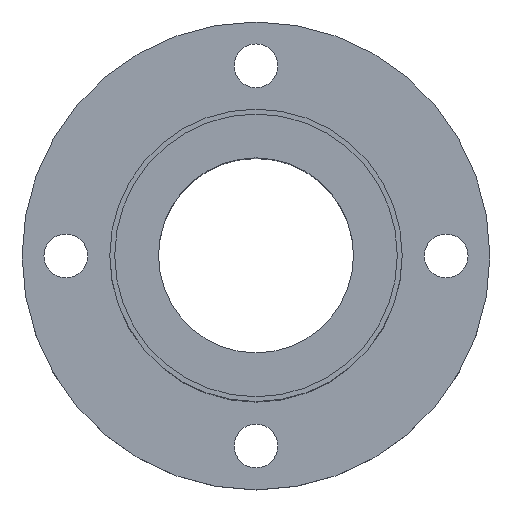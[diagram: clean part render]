
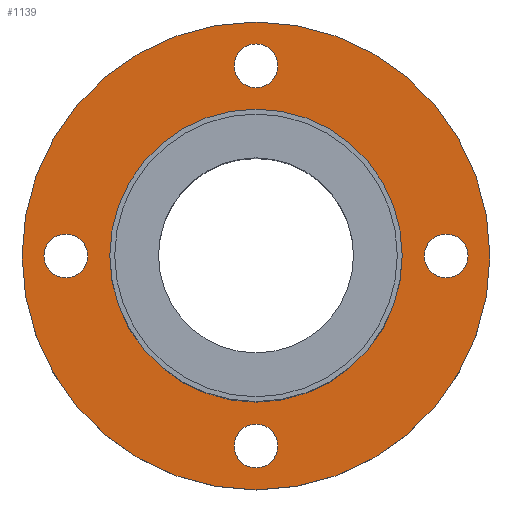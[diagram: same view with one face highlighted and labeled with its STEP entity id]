
A CAD part, top view. The second image highlights one B-rep face of the part: STEP entity #1139.
In plain terms, the highlighted planar face has unit normal (0, 0, 1).
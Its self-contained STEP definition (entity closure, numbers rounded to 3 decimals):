
#51=CARTESIAN_POINT('',(-48.,-0.1,13.0));
#52=VERTEX_POINT('',#51);
#68=CARTESIAN_POINT('',(48.,-0.1,13.0));
#69=VERTEX_POINT('',#68);
#76=CARTESIAN_POINT('',(0.0,-0.1,13.0));
#77=DIRECTION('',(0.0,0.0,-1.0));
#78=DIRECTION('',(-1.0,0.0,0.0));
#79=AXIS2_PLACEMENT_3D('',#76,#77,#78);
#80=CIRCLE('',#79,48.);
#81=EDGE_CURVE('',#69,#52,#80,.T.);
#133=CARTESIAN_POINT('',(-30.0,-0.1,13.0));
#134=VERTEX_POINT('',#133);
#143=CARTESIAN_POINT('',(30.0,-0.1,13.0));
#144=VERTEX_POINT('',#143);
#145=CARTESIAN_POINT('',(0.0,-0.1,13.0));
#146=DIRECTION('',(0.0,0.0,-1.0));
#147=DIRECTION('',(-1.0,0.0,0.0));
#148=AXIS2_PLACEMENT_3D('',#145,#146,#147);
#149=CIRCLE('',#148,30.0);
#150=EDGE_CURVE('',#144,#134,#149,.T.);
#345=CARTESIAN_POINT('',(0.0,34.4,13.));
#346=VERTEX_POINT('',#345);
#362=CARTESIAN_POINT('',(0.,43.4,13.0));
#363=VERTEX_POINT('',#362);
#370=CARTESIAN_POINT('',(0.0,38.9,13.0));
#371=DIRECTION('',(0.0,0.0,-1.0));
#372=DIRECTION('',(0.0,-1.0,0.0));
#373=AXIS2_PLACEMENT_3D('',#370,#371,#372);
#374=CIRCLE('',#373,4.5);
#375=EDGE_CURVE('',#346,#363,#374,.T.);
#429=CARTESIAN_POINT('',(-34.5,-0.1,13.));
#430=VERTEX_POINT('',#429);
#446=CARTESIAN_POINT('',(-43.5,-0.1,13.0));
#447=VERTEX_POINT('',#446);
#454=CARTESIAN_POINT('',(-39.0,-0.1,13.0));
#455=DIRECTION('',(0.0,0.0,-1.0));
#456=DIRECTION('',(1.0,0.0,0.0));
#457=AXIS2_PLACEMENT_3D('',#454,#455,#456);
#458=CIRCLE('',#457,4.5);
#459=EDGE_CURVE('',#430,#447,#458,.T.);
#513=CARTESIAN_POINT('',(0.,-34.6,13.));
#514=VERTEX_POINT('',#513);
#530=CARTESIAN_POINT('',(0.,-43.6,13.0));
#531=VERTEX_POINT('',#530);
#538=CARTESIAN_POINT('',(0.,-39.1,13.0));
#539=DIRECTION('',(0.0,0.0,-1.0));
#540=DIRECTION('',(0.0,1.0,0.0));
#541=AXIS2_PLACEMENT_3D('',#538,#539,#540);
#542=CIRCLE('',#541,4.5);
#543=EDGE_CURVE('',#514,#531,#542,.T.);
#597=CARTESIAN_POINT('',(34.5,-0.1,13.));
#598=VERTEX_POINT('',#597);
#614=CARTESIAN_POINT('',(43.5,-0.1,13.0));
#615=VERTEX_POINT('',#614);
#622=CARTESIAN_POINT('',(39.0,-0.1,13.0));
#623=DIRECTION('',(0.0,0.0,-1.0));
#624=DIRECTION('',(-1.0,0.0,0.0));
#625=AXIS2_PLACEMENT_3D('',#622,#623,#624);
#626=CIRCLE('',#625,4.5);
#627=EDGE_CURVE('',#598,#615,#626,.T.);
#638=CARTESIAN_POINT('',(39.0,-0.1,13.0));
#639=DIRECTION('',(0.0,0.0,-1.0));
#640=DIRECTION('',(-1.0,0.0,0.0));
#641=AXIS2_PLACEMENT_3D('',#638,#639,#640);
#642=CIRCLE('',#641,4.5);
#643=EDGE_CURVE('',#615,#598,#642,.T.);
#700=CARTESIAN_POINT('',(0.,-39.1,13.0));
#701=DIRECTION('',(0.0,0.0,-1.0));
#702=DIRECTION('',(0.0,1.0,0.0));
#703=AXIS2_PLACEMENT_3D('',#700,#701,#702);
#704=CIRCLE('',#703,4.5);
#705=EDGE_CURVE('',#531,#514,#704,.T.);
#762=CARTESIAN_POINT('',(-39.0,-0.1,13.0));
#763=DIRECTION('',(0.0,0.0,-1.0));
#764=DIRECTION('',(1.0,0.0,0.0));
#765=AXIS2_PLACEMENT_3D('',#762,#763,#764);
#766=CIRCLE('',#765,4.5);
#767=EDGE_CURVE('',#447,#430,#766,.T.);
#824=CARTESIAN_POINT('',(0.0,38.9,13.0));
#825=DIRECTION('',(0.0,0.0,-1.0));
#826=DIRECTION('',(0.0,-1.0,0.0));
#827=AXIS2_PLACEMENT_3D('',#824,#825,#826);
#828=CIRCLE('',#827,4.5);
#829=EDGE_CURVE('',#363,#346,#828,.T.);
#1056=CARTESIAN_POINT('',(0.0,-0.1,13.0));
#1057=DIRECTION('',(0.0,0.0,-1.0));
#1058=DIRECTION('',(-1.0,0.0,0.0));
#1059=AXIS2_PLACEMENT_3D('',#1056,#1057,#1058);
#1060=CIRCLE('',#1059,30.0);
#1061=EDGE_CURVE('',#134,#144,#1060,.T.);
#1098=CARTESIAN_POINT('',(0.0,-0.1,13.0));
#1099=DIRECTION('',(0.0,0.0,-1.0));
#1100=DIRECTION('',(-1.0,0.0,0.0));
#1101=AXIS2_PLACEMENT_3D('',#1098,#1099,#1100);
#1102=CIRCLE('',#1101,48.);
#1103=EDGE_CURVE('',#52,#69,#1102,.T.);
#1110=CARTESIAN_POINT('',(0.0,-0.1,13.0));
#1111=DIRECTION('',(0.0,0.0,-1.0));
#1112=DIRECTION('',(-1.0,0.0,0.0));
#1113=AXIS2_PLACEMENT_3D('',#1110,#1111,#1112);
#1114=PLANE('',#1113);
#1115=ORIENTED_EDGE('',*,*,#81,.F.);
#1116=ORIENTED_EDGE('',*,*,#1103,.F.);
#1117=EDGE_LOOP('',(#1115,#1116));
#1118=FACE_OUTER_BOUND('',#1117,.T.);
#1119=ORIENTED_EDGE('',*,*,#627,.T.);
#1120=ORIENTED_EDGE('',*,*,#643,.T.);
#1121=EDGE_LOOP('',(#1119,#1120));
#1122=FACE_BOUND('',#1121,.T.);
#1123=ORIENTED_EDGE('',*,*,#543,.T.);
#1124=ORIENTED_EDGE('',*,*,#705,.T.);
#1125=EDGE_LOOP('',(#1123,#1124));
#1126=FACE_BOUND('',#1125,.T.);
#1127=ORIENTED_EDGE('',*,*,#459,.T.);
#1128=ORIENTED_EDGE('',*,*,#767,.T.);
#1129=EDGE_LOOP('',(#1127,#1128));
#1130=FACE_BOUND('',#1129,.T.);
#1131=ORIENTED_EDGE('',*,*,#375,.T.);
#1132=ORIENTED_EDGE('',*,*,#829,.T.);
#1133=EDGE_LOOP('',(#1131,#1132));
#1134=FACE_BOUND('',#1133,.T.);
#1135=ORIENTED_EDGE('',*,*,#150,.T.);
#1136=ORIENTED_EDGE('',*,*,#1061,.T.);
#1137=EDGE_LOOP('',(#1135,#1136));
#1138=FACE_BOUND('',#1137,.T.);
#1139=ADVANCED_FACE('',(#1118,#1122,#1126,#1130,#1134,#1138),#1114,.F.);
